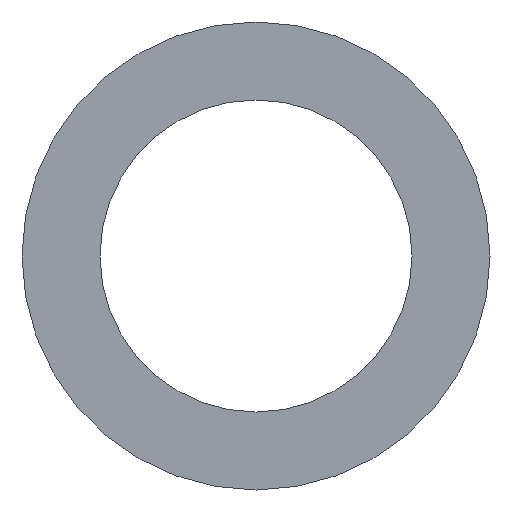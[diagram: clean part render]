
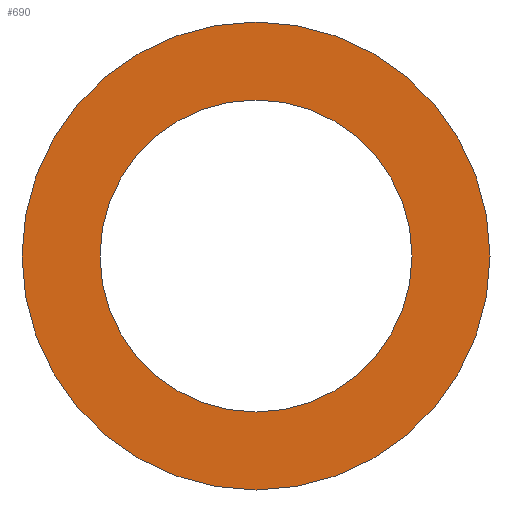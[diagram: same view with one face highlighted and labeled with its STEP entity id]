
A CAD part, front view. The second image highlights one B-rep face of the part: STEP entity #690.
In plain terms, the highlighted planar face has unit normal (0, -1, 0).
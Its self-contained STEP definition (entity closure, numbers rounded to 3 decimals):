
#121 = DIRECTION ( 'NONE',  ( 0., -1., 0. ) ) ;
#124 = CARTESIAN_POINT ( 'NONE',  ( 0., -16.5, 0. ) ) ;
#284 = DIRECTION ( 'NONE',  ( 0., 0., -1. ) ) ;
#311 = CARTESIAN_POINT ( 'NONE',  ( 0., -16.5, -30. ) ) ;
#511 = DIRECTION ( 'NONE',  ( 0., 0., -1. ) ) ;
#514 = CIRCLE ( 'NONE', #2284, 45. ) ;
#556 = CARTESIAN_POINT ( 'NONE',  ( 0., -16.5, 0. ) ) ;
#689 = ORIENTED_EDGE ( 'NONE', *, *, #3330, .F. ) ;
#690 = ADVANCED_FACE ( 'NONE', ( #1149, #3322 ), #2958, .F. ) ;
#841 = DIRECTION ( 'NONE',  ( 0., -1., 0. ) ) ;
#863 = EDGE_LOOP ( 'NONE', ( #3061, #689 ) ) ;
#876 = CARTESIAN_POINT ( 'NONE',  ( 0., -16.5, -45. ) ) ;
#958 = DIRECTION ( 'NONE',  ( 0., -1., 0. ) ) ;
#961 = CARTESIAN_POINT ( 'NONE',  ( 0., -16.5, 30. ) ) ;
#1054 = VERTEX_POINT ( 'NONE', #3603 ) ;
#1056 = DIRECTION ( 'NONE',  ( 0., -1., 0. ) ) ;
#1080 = ORIENTED_EDGE ( 'NONE', *, *, #2568, .T. ) ;
#1149 = FACE_BOUND ( 'NONE', #863, .T. ) ;
#1280 = CARTESIAN_POINT ( 'NONE',  ( 0., -16.5, 0. ) ) ;
#1316 = CIRCLE ( 'NONE', #2397, 30. ) ;
#1553 = AXIS2_PLACEMENT_3D ( 'NONE', #556, #841, #284 ) ;
#1564 = CARTESIAN_POINT ( 'NONE',  ( 0., -16.5, 30. ) ) ;
#2084 = DIRECTION ( 'NONE',  ( 0., 0., -1. ) ) ;
#2140 = VERTEX_POINT ( 'NONE', #1564 ) ;
#2192 = EDGE_CURVE ( 'NONE', #1054, #2320, #514, .T. ) ;
#2284 = AXIS2_PLACEMENT_3D ( 'NONE', #2764, #1056, #511 ) ;
#2320 = VERTEX_POINT ( 'NONE', #876 ) ;
#2397 = AXIS2_PLACEMENT_3D ( 'NONE', #1280, #121, #3269 ) ;
#2536 = CIRCLE ( 'NONE', #3257, 45. ) ;
#2568 = EDGE_CURVE ( 'NONE', #2320, #1054, #2536, .T. ) ;
#2675 = DIRECTION ( 'NONE',  ( 0., 0., 1. ) ) ;
#2764 = CARTESIAN_POINT ( 'NONE',  ( 0., -16.5, 0. ) ) ;
#2816 = EDGE_LOOP ( 'NONE', ( #1080, #3208 ) ) ;
#2958 = PLANE ( 'NONE',  #3380 ) ;
#3061 = ORIENTED_EDGE ( 'NONE', *, *, #3652, .F. ) ;
#3114 = VERTEX_POINT ( 'NONE', #311 ) ;
#3208 = ORIENTED_EDGE ( 'NONE', *, *, #2192, .T. ) ;
#3257 = AXIS2_PLACEMENT_3D ( 'NONE', #124, #958, #2084 ) ;
#3269 = DIRECTION ( 'NONE',  ( 0., 0., -1. ) ) ;
#3294 = CIRCLE ( 'NONE', #1553, 30. ) ;
#3322 = FACE_OUTER_BOUND ( 'NONE', #2816, .T. ) ;
#3330 = EDGE_CURVE ( 'NONE', #2140, #3114, #1316, .T. ) ;
#3380 = AXIS2_PLACEMENT_3D ( 'NONE', #961, #3518, #2675 ) ;
#3518 = DIRECTION ( 'NONE',  ( 0., 1., 0. ) ) ;
#3603 = CARTESIAN_POINT ( 'NONE',  ( 0., -16.5, 45. ) ) ;
#3652 = EDGE_CURVE ( 'NONE', #3114, #2140, #3294, .T. ) ;
